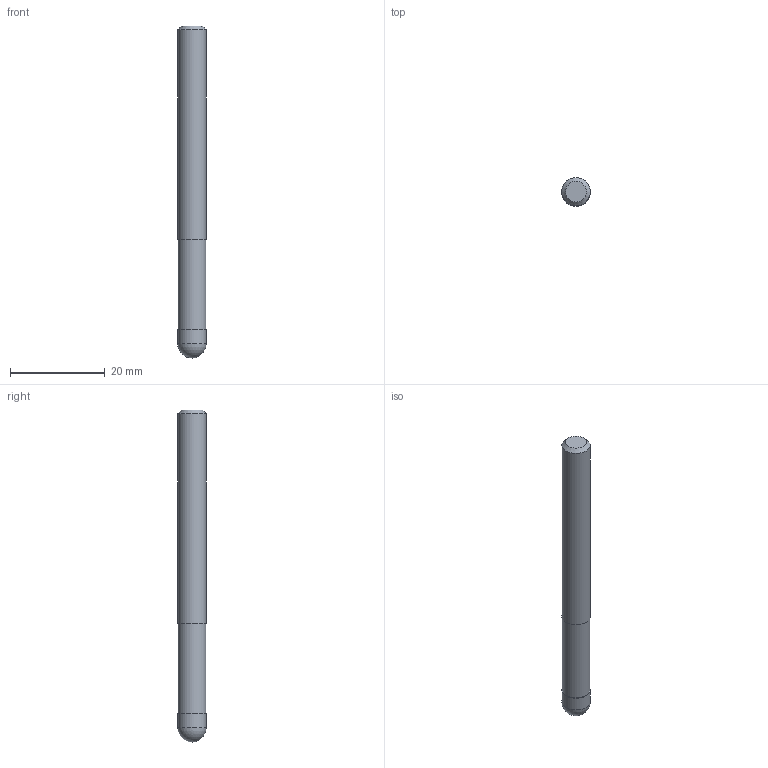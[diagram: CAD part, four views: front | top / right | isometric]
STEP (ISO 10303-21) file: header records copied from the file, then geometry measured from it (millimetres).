
FILE_DESCRIPTION((''),'2;1');
FILE_NAME('C:\Users\nsx150\AppData\Local\Temp\Mastercam 2021\3SYKECWX22\TEMP.step','2021-04-22T10:05:57',(''),(''),'STEP Write','Mastercam 2021 ... CNC Software, Inc.','');
FILE_SCHEMA(('AUTOMOTIVE_DESIGN'));
Length unit declared in the file: millimetre
Products named in the file (1): None
Bounding box: 6 x 6 x 70 mm (x, y, z)
Volume: 1910.2 mm3; surface area: 1382.7 mm2
Topology: 2 solids, 2 shells, 9 faces, 13 edges, 8 vertices
Faces by surface type: plane 4, cylinder 3, sphere 1, cone 1
Full cylindrical faces by diameter (mm): 5.8 x1, 6 x2
Entity records: 211 total; most frequent: DIRECTION 36, CARTESIAN_POINT 25, AXIS2_PLACEMENT_3D 18, ORIENTED_EDGE 14, EDGE_LOOP 14, STYLED_ITEM 12, ADVANCED_FACE 9, FACE_BOUND 8
